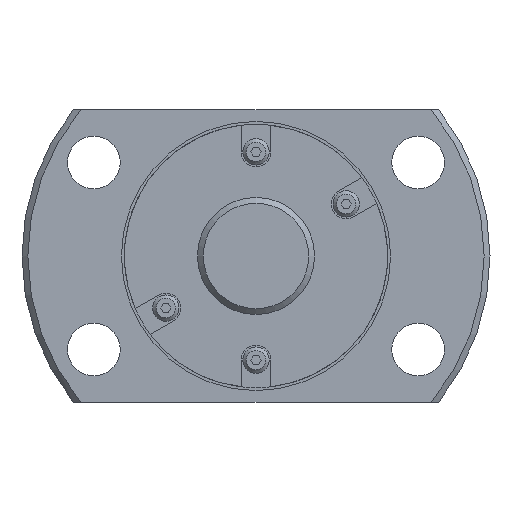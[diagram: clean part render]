
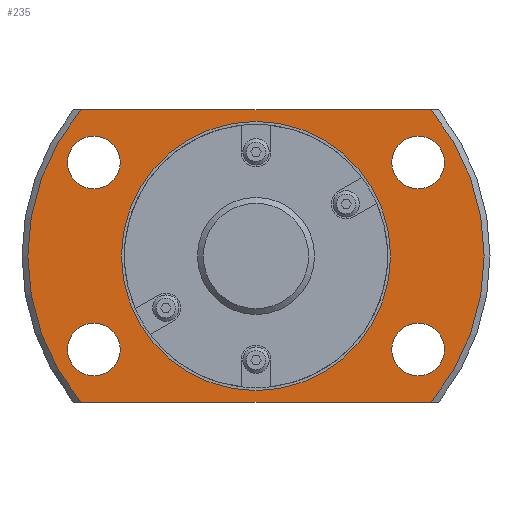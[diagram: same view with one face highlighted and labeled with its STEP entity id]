
A CAD part, left-side view. The second image highlights one B-rep face of the part: STEP entity #235.
In plain terms, the highlighted planar face has unit normal (-1, 0, 0).
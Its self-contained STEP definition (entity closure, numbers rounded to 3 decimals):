
#235 = ADVANCED_FACE( '', ( #429, #430, #431, #432, #433, #434 ), #435, .F. );
#429 = FACE_OUTER_BOUND( '', #682, .T. );
#430 = FACE_BOUND( '', #683, .T. );
#431 = FACE_BOUND( '', #684, .T. );
#432 = FACE_BOUND( '', #685, .T. );
#433 = FACE_BOUND( '', #686, .T. );
#434 = FACE_BOUND( '', #687, .T. );
#435 = PLANE( '', #688 );
#682 = EDGE_LOOP( '', ( #1221, #1222, #1223, #1224 ) );
#683 = EDGE_LOOP( '', ( #1225 ) );
#684 = EDGE_LOOP( '', ( #1226 ) );
#685 = EDGE_LOOP( '', ( #1227 ) );
#686 = EDGE_LOOP( '', ( #1228 ) );
#687 = EDGE_LOOP( '', ( #1229 ) );
#688 = AXIS2_PLACEMENT_3D( '', #1230, #1231, #1232 );
#1221 = ORIENTED_EDGE( '', *, *, #1515, .F. );
#1222 = ORIENTED_EDGE( '', *, *, #1638, .T. );
#1223 = ORIENTED_EDGE( '', *, *, #1639, .F. );
#1224 = ORIENTED_EDGE( '', *, *, #1514, .T. );
#1225 = ORIENTED_EDGE( '', *, *, #1625, .T. );
#1226 = ORIENTED_EDGE( '', *, *, #1627, .T. );
#1227 = ORIENTED_EDGE( '', *, *, #1629, .T. );
#1228 = ORIENTED_EDGE( '', *, *, #1631, .T. );
#1229 = ORIENTED_EDGE( '', *, *, #1640, .T. );
#1230 = CARTESIAN_POINT( '', ( 22., 11.25, 0. ) );
#1231 = DIRECTION( '', ( 1., 0., 0. ) );
#1232 = DIRECTION( '', ( 0., 0., -1. ) );
#1514 = EDGE_CURVE( '', #1731, #1743, #1745, .T. );
#1515 = EDGE_CURVE( '', #1746, #1743, #1747, .T. );
#1625 = EDGE_CURVE( '', #1941, #1941, #1942, .T. );
#1627 = EDGE_CURVE( '', #1945, #1945, #1946, .T. );
#1629 = EDGE_CURVE( '', #1949, #1949, #1950, .T. );
#1631 = EDGE_CURVE( '', #1953, #1953, #1954, .T. );
#1638 = EDGE_CURVE( '', #1746, #1965, #1967, .T. );
#1639 = EDGE_CURVE( '', #1731, #1965, #1968, .T. );
#1640 = EDGE_CURVE( '', #1969, #1969, #1970, .T. );
#1731 = VERTEX_POINT( '', #2091 );
#1743 = VERTEX_POINT( '', #2115 );
#1745 = LINE( '', #2120, #2121 );
#1746 = VERTEX_POINT( '', #2122 );
#1747 = CIRCLE( '', #2123, 19.5 );
#1941 = VERTEX_POINT( '', #2407 );
#1942 = CIRCLE( '', #2408, 2.25 );
#1945 = VERTEX_POINT( '', #2411 );
#1946 = CIRCLE( '', #2412, 2.25 );
#1949 = VERTEX_POINT( '', #2415 );
#1950 = CIRCLE( '', #2416, 2.25 );
#1953 = VERTEX_POINT( '', #2419 );
#1954 = CIRCLE( '', #2420, 2.25 );
#1965 = VERTEX_POINT( '', #2440 );
#1967 = LINE( '', #2445, #2446 );
#1968 = CIRCLE( '', #2447, 19.5 );
#1969 = VERTEX_POINT( '', #2448 );
#1970 = CIRCLE( '', #2449, 11.25 );
#2091 = CARTESIAN_POINT( '', ( 22., -14.967, 12.5 ) );
#2115 = CARTESIAN_POINT( '', ( 22., 14.967, 12.5 ) );
#2120 = CARTESIAN_POINT( '', ( 22., 11.25, 12.5 ) );
#2121 = VECTOR( '', #2592, 1000. );
#2122 = CARTESIAN_POINT( '', ( 22., 14.967, -12.5 ) );
#2123 = AXIS2_PLACEMENT_3D( '', #2593, #2594, #2595 );
#2407 = CARTESIAN_POINT( '', ( 22., -13.856, -10.25 ) );
#2408 = AXIS2_PLACEMENT_3D( '', #2746, #2747, #2748 );
#2411 = CARTESIAN_POINT( '', ( 22., -13.856, 5.75 ) );
#2412 = AXIS2_PLACEMENT_3D( '', #2752, #2753, #2754 );
#2415 = CARTESIAN_POINT( '', ( 22., 13.856, -10.25 ) );
#2416 = AXIS2_PLACEMENT_3D( '', #2758, #2759, #2760 );
#2419 = CARTESIAN_POINT( '', ( 22., 13.856, 5.75 ) );
#2420 = AXIS2_PLACEMENT_3D( '', #2764, #2765, #2766 );
#2440 = CARTESIAN_POINT( '', ( 22., -14.967, -12.5 ) );
#2445 = CARTESIAN_POINT( '', ( 22., 11.25, -12.5 ) );
#2446 = VECTOR( '', #2770, 1000. );
#2447 = AXIS2_PLACEMENT_3D( '', #2771, #2772, #2773 );
#2448 = CARTESIAN_POINT( '', ( 22., 0., -11.25 ) );
#2449 = AXIS2_PLACEMENT_3D( '', #2774, #2775, #2776 );
#2592 = DIRECTION( '', ( 0., 1., 0. ) );
#2593 = CARTESIAN_POINT( '', ( 22., 0., 0. ) );
#2594 = DIRECTION( '', ( 1., 0., 0. ) );
#2595 = DIRECTION( '', ( 0., 0., -1. ) );
#2746 = CARTESIAN_POINT( '', ( 22., -13.856, -8. ) );
#2747 = DIRECTION( '', ( 1., 0., 0. ) );
#2748 = DIRECTION( '', ( 0., 0., -1. ) );
#2752 = CARTESIAN_POINT( '', ( 22., -13.856, 8. ) );
#2753 = DIRECTION( '', ( 1., 0., 0. ) );
#2754 = DIRECTION( '', ( 0., 0., -1. ) );
#2758 = CARTESIAN_POINT( '', ( 22., 13.856, -8. ) );
#2759 = DIRECTION( '', ( 1., 0., 0. ) );
#2760 = DIRECTION( '', ( 0., 0., -1. ) );
#2764 = CARTESIAN_POINT( '', ( 22., 13.856, 8. ) );
#2765 = DIRECTION( '', ( 1., 0., 0. ) );
#2766 = DIRECTION( '', ( 0., 0., -1. ) );
#2770 = DIRECTION( '', ( 0., -1., 0. ) );
#2771 = CARTESIAN_POINT( '', ( 22., 0., 0. ) );
#2772 = DIRECTION( '', ( 1., 0., 0. ) );
#2773 = DIRECTION( '', ( 0., 0., -1. ) );
#2774 = CARTESIAN_POINT( '', ( 22., 0., 0. ) );
#2775 = DIRECTION( '', ( 1., 0., 0. ) );
#2776 = DIRECTION( '', ( 0., 0., -1. ) );
